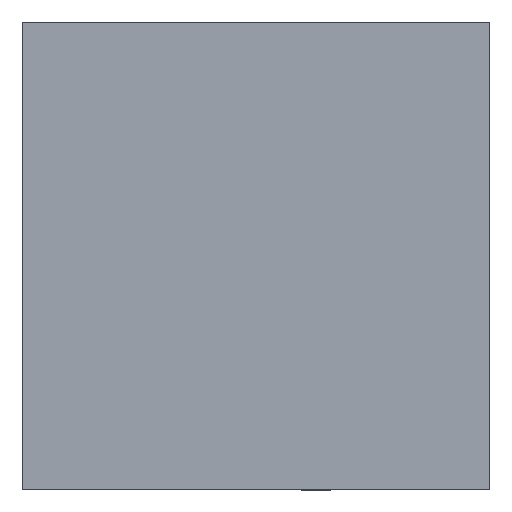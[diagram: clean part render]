
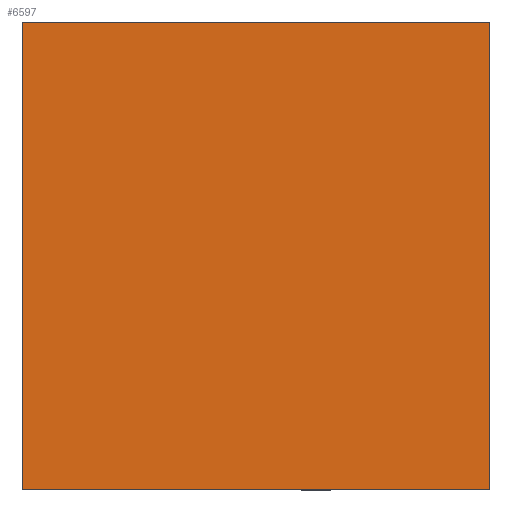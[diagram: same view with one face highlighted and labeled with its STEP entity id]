
A CAD part, front view. The second image highlights one B-rep face of the part: STEP entity #6597.
In plain terms, the highlighted planar face has unit normal (0, -1, 0) as drawn and (0, 1, 0) by its records, which use the part's own axes.
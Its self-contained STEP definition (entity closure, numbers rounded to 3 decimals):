
#142 = CARTESIAN_POINT ( 'NONE',  ( -2., 1.45, 2. ) ) ;
#292 = ORIENTED_EDGE ( 'NONE', *, *, #4036, .T. ) ;
#363 = VECTOR ( 'NONE', #5281, 1000. ) ;
#591 = LINE ( 'NONE', #3479, #8914 ) ;
#722 = CARTESIAN_POINT ( 'NONE',  ( 2., 1.45, -2. ) ) ;
#1161 = CARTESIAN_POINT ( 'NONE',  ( -2., 1.45, -2. ) ) ;
#1274 = DIRECTION ( 'NONE',  ( 0., 0., 1. ) ) ;
#2007 = PLANE ( 'NONE',  #7366 ) ;
#2167 = VERTEX_POINT ( 'NONE', #142 ) ;
#2502 = VERTEX_POINT ( 'NONE', #722 ) ;
#3479 = CARTESIAN_POINT ( 'NONE',  ( 2., 1.45, -2. ) ) ;
#3576 = VECTOR ( 'NONE', #7823, 1000. ) ;
#3974 = ORIENTED_EDGE ( 'NONE', *, *, #5068, .F. ) ;
#4036 = EDGE_CURVE ( 'NONE', #2167, #8070, #6563, .T. ) ;
#5020 = LINE ( 'NONE', #7729, #3576 ) ;
#5068 = EDGE_CURVE ( 'NONE', #2502, #8070, #591, .T. ) ;
#5100 = VERTEX_POINT ( 'NONE', #8943 ) ;
#5224 = DIRECTION ( 'NONE',  ( 1., 0., 0. ) ) ;
#5281 = DIRECTION ( 'NONE',  ( 0., 0., 1. ) ) ;
#6227 = CARTESIAN_POINT ( 'NONE',  ( 0., 1.45, 0. ) ) ;
#6563 = LINE ( 'NONE', #7332, #8627 ) ;
#6597 = ADVANCED_FACE ( 'NONE', ( #7555 ), #2007, .T. ) ;
#6682 = ORIENTED_EDGE ( 'NONE', *, *, #7151, .F. ) ;
#6761 = CARTESIAN_POINT ( 'NONE',  ( 2., 1.45, 2. ) ) ;
#6951 = DIRECTION ( 'NONE',  ( 0., 1., 0. ) ) ;
#7151 = EDGE_CURVE ( 'NONE', #5100, #2502, #5020, .T. ) ;
#7205 = EDGE_LOOP ( 'NONE', ( #7267, #292, #3974, #6682 ) ) ;
#7255 = EDGE_CURVE ( 'NONE', #5100, #2167, #8740, .T. ) ;
#7267 = ORIENTED_EDGE ( 'NONE', *, *, #7255, .T. ) ;
#7332 = CARTESIAN_POINT ( 'NONE',  ( -2., 1.45, 2. ) ) ;
#7366 = AXIS2_PLACEMENT_3D ( 'NONE', #6227, #6951, #1274 ) ;
#7555 = FACE_OUTER_BOUND ( 'NONE', #7205, .T. ) ;
#7607 = DIRECTION ( 'NONE',  ( 0., 0., 1. ) ) ;
#7729 = CARTESIAN_POINT ( 'NONE',  ( -2., 1.45, -2. ) ) ;
#7823 = DIRECTION ( 'NONE',  ( 1., 0., 0. ) ) ;
#8070 = VERTEX_POINT ( 'NONE', #6761 ) ;
#8627 = VECTOR ( 'NONE', #5224, 1000. ) ;
#8740 = LINE ( 'NONE', #1161, #363 ) ;
#8914 = VECTOR ( 'NONE', #7607, 1000. ) ;
#8943 = CARTESIAN_POINT ( 'NONE',  ( -2., 1.45, -2. ) ) ;
